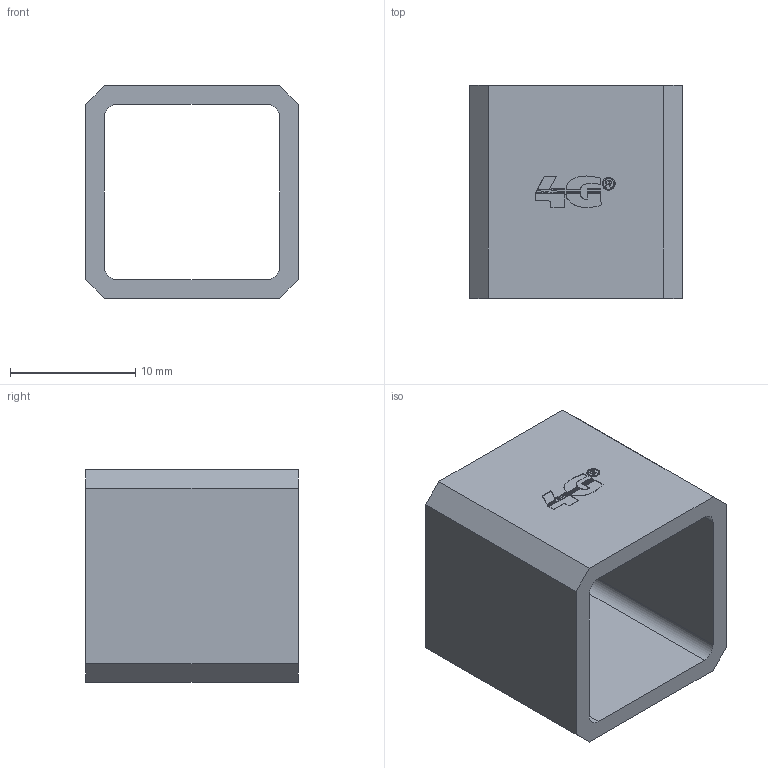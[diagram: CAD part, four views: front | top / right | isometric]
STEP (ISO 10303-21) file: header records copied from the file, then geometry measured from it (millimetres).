
FILE_DESCRIPTION((''),'2;1');
FILE_NAME('76700163800','2024-01-31T09:32:07',('alfio.taboni'),('CDM Tecnoconsulting'),'CREO PARAMETRIC BY PTC INC, 2020053','CREO PARAMETRIC BY PTC INC, 2020053','');
FILE_SCHEMA(('CONFIG_CONTROL_DESIGN','SHAPE_APPEARANCE_LAYERS_GROUPS'));
Length unit declared in the file: millimetre
Products named in the file (1): 76700163800
Bounding box: 17 x 17 x 17 mm (x, y, z)
Volume: 1518.7 mm3; surface area: 2200.2 mm2
Topology: 1 solids, 1 shells, 145 faces, 387 edges, 258 vertices
Faces by surface type: plane 86, extrusion 55, cylinder 4
Entity records: 4782 total; most frequent: CARTESIAN_POINT 1224, ORIENTED_EDGE 774, DIRECTION 520, EDGE_CURVE 387, VECTOR 324, LINE 269, VERTEX_POINT 258, B_SPLINE_CURVE_WITH_KNOTS 165
